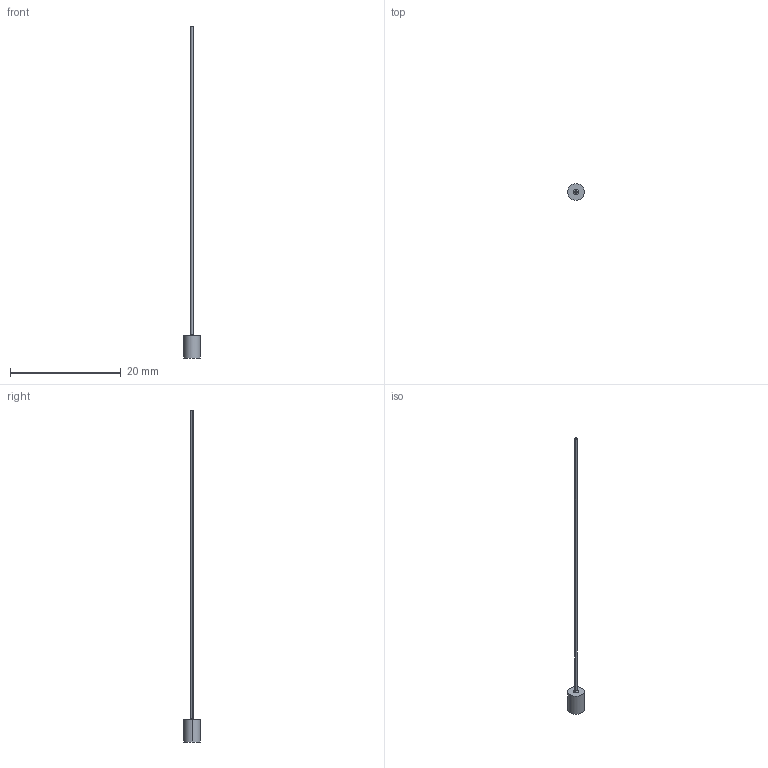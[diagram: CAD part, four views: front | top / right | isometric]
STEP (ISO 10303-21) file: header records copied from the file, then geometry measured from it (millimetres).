
FILE_DESCRIPTION (( 'STEP AP214' ), '1' );
FILE_NAME ('EPHE-B0.4-60.step', '2024-04-11T21:20:02', ( '' ), ( '' ), 'SwSTEP 2.0', 'SolidWorks 2017', '' );
FILE_SCHEMA (( 'AUTOMOTIVE_DESIGN' ));
Length unit declared in the file: millimetre
Products named in the file (1): EPHE-B0.4-60
Bounding box: 3 x 3 x 60 mm (x, y, z)
Volume: 35.3 mm3; surface area: 122.1 mm2
Topology: 1 solids, 1 shells, 9 faces, 16 edges, 10 vertices
Faces by surface type: cylinder 4, plane 3, torus 2
Entity records: 260 total; most frequent: DIRECTION 48, CARTESIAN_POINT 36, ORIENTED_EDGE 32, AXIS2_PLACEMENT_3D 22, EDGE_CURVE 16, CIRCLE 12, EDGE_LOOP 10, VERTEX_POINT 10
